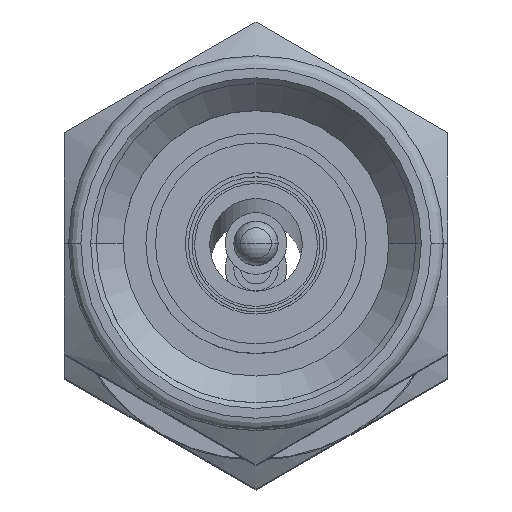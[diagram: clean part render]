
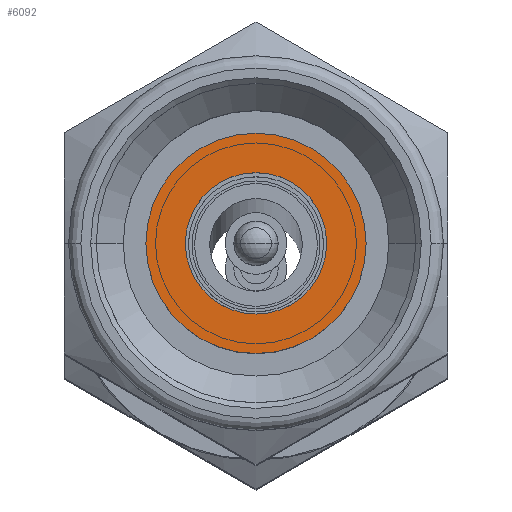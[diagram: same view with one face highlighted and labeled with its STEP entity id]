
A CAD part, top view. The second image highlights one B-rep face of the part: STEP entity #6092.
In plain terms, the highlighted planar face has unit normal (0, 0, 1) as drawn and (-1, 0, 0) by its records, which use the part's own axes.
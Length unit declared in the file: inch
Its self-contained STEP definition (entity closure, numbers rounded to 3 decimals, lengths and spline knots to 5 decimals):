
#165 = DIRECTION ( 'NONE',  ( 1., 0., 0. ) ) ;
#207 = AXIS2_PLACEMENT_3D ( 'NONE', #7770, #855, #7793 ) ;
#209 = CARTESIAN_POINT ( 'NONE',  ( 0., 0., 0.0575 ) ) ;
#522 = CARTESIAN_POINT ( 'NONE',  ( 0., 0., 0.08962 ) ) ;
#534 = ORIENTED_EDGE ( 'NONE', *, *, #2621, .F. ) ;
#715 = EDGE_CURVE ( 'NONE', #3299, #3547, #3738, .T. ) ;
#855 = DIRECTION ( 'NONE',  ( -1., 0., 0. ) ) ;
#1193 = CARTESIAN_POINT ( 'NONE',  ( 0., 0., -0.0575 ) ) ;
#1809 = AXIS2_PLACEMENT_3D ( 'NONE', #5721, #5652, #5744 ) ;
#1871 = ORIENTED_EDGE ( 'NONE', *, *, #715, .T. ) ;
#2621 = EDGE_CURVE ( 'NONE', #8341, #4704, #3647, .T. ) ;
#2777 = AXIS2_PLACEMENT_3D ( 'NONE', #5142, #165, #5097 ) ;
#2977 = CARTESIAN_POINT ( 'NONE',  ( 0., 0., -0.08963 ) ) ;
#3020 = DIRECTION ( 'NONE',  ( 0., 0., 1. ) ) ;
#3104 = DIRECTION ( 'NONE',  ( -1., 0., 0. ) ) ;
#3299 = VERTEX_POINT ( 'NONE', #522 ) ;
#3498 = CIRCLE ( 'NONE', #6312, 0.08962 ) ;
#3547 = VERTEX_POINT ( 'NONE', #2977 ) ;
#3647 = CIRCLE ( 'NONE', #207, 0.0575 ) ;
#3738 = CIRCLE ( 'NONE', #1809, 0.08962 ) ;
#4210 = FACE_BOUND ( 'NONE', #7535, .T. ) ;
#4704 = VERTEX_POINT ( 'NONE', #1193 ) ;
#4814 = EDGE_CURVE ( 'NONE', #3547, #3299, #3498, .T. ) ;
#5087 = CARTESIAN_POINT ( 'NONE',  ( 0., 0., 0. ) ) ;
#5097 = DIRECTION ( 'NONE',  ( 0., 0., -1. ) ) ;
#5142 = CARTESIAN_POINT ( 'NONE',  ( 0., 0., -0.0575 ) ) ;
#5652 = DIRECTION ( 'NONE',  ( -1., 0., 0. ) ) ;
#5721 = CARTESIAN_POINT ( 'NONE',  ( 0., 0., 0. ) ) ;
#5744 = DIRECTION ( 'NONE',  ( 0., 0., 1. ) ) ;
#5946 = PLANE ( 'NONE',  #2777 ) ;
#6092 = ADVANCED_FACE ( 'NONE', ( #4210, #6823 ), #5946, .F. ) ;
#6312 = AXIS2_PLACEMENT_3D ( 'NONE', #5087, #3104, #3020 ) ;
#6577 = CARTESIAN_POINT ( 'NONE',  ( 0., 0., 0. ) ) ;
#6679 = DIRECTION ( 'NONE',  ( -1., 0., 0. ) ) ;
#6823 = FACE_OUTER_BOUND ( 'NONE', #10209, .T. ) ;
#6868 = CIRCLE ( 'NONE', #10723, 0.0575 ) ;
#7265 = DIRECTION ( 'NONE',  ( 0., 0., 1. ) ) ;
#7535 = EDGE_LOOP ( 'NONE', ( #534, #7993 ) ) ;
#7612 = EDGE_CURVE ( 'NONE', #4704, #8341, #6868, .T. ) ;
#7770 = CARTESIAN_POINT ( 'NONE',  ( 0., 0., 0. ) ) ;
#7793 = DIRECTION ( 'NONE',  ( 0., 0., 1. ) ) ;
#7993 = ORIENTED_EDGE ( 'NONE', *, *, #7612, .F. ) ;
#8341 = VERTEX_POINT ( 'NONE', #209 ) ;
#10207 = ORIENTED_EDGE ( 'NONE', *, *, #4814, .T. ) ;
#10209 = EDGE_LOOP ( 'NONE', ( #1871, #10207 ) ) ;
#10723 = AXIS2_PLACEMENT_3D ( 'NONE', #6577, #6679, #7265 ) ;
